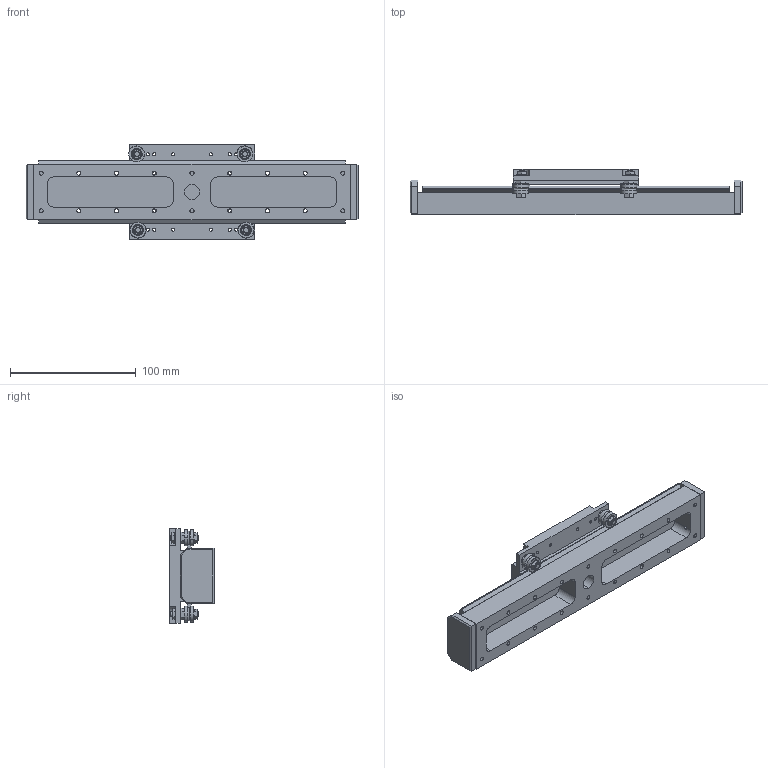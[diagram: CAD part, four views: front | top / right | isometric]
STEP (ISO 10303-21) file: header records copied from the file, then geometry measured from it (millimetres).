
FILE_DESCRIPTION (( 'STEP AP214' ), '1' );
FILE_NAME ('VSM23-P-150 - Simplified.STEP', '2024-06-21T09:20:35', ( '' ), ( '' ), 'SwSTEP 2.0', 'SolidWorks 2024', '' );
FILE_SCHEMA (( 'AUTOMOTIVE_DESIGN' ));
Length unit declared in the file: millimetre
Products named in the file (16): Bearing_Simplified; Concentric shaft_Simplified; VSM23-P Passive Carriage Assy_Simplified; Inner_Simplified; Outer_Simplified; VSM23-P-150 - Simplified; Eccentric Bearing Assy_Simplified; VSM23-X-150 V-slide_Simplified; Concentric Bearing Assy_Simplified; P0301.040-A2_P0301.040-A2; M4 Washer; VSM23-P-150 Base plate_Simplified; Eccentric shaft_Simplified; VSM23-P End Plate_Simplified; VSM23-P Passive Carriage_Simplified; Ball
Assembly tree (34 placements, depth 5):
  VSM23-P-150 - Simplified
    VSM23-P-150 Base plate_Simplified
    VSM23-X-150 V-slide_Simplified
    VSM23-P Passive Carriage Assy_Simplified
      VSM23-P Passive Carriage_Simplified
      Eccentric Bearing Assy_Simplified  x2
        Eccentric shaft_Simplified
        Bearing_Simplified
          Outer_Simplified
          Inner_Simplified
          Ball  x8
        P0301.040-A2_P0301.040-A2
      Concentric Bearing Assy_Simplified  x2
        Concentric shaft_Simplified
        Bearing_Simplified
          Outer_Simplified
          Inner_Simplified
          Ball  x8
        P0301.040-A2_P0301.040-A2
      M4 Washer  x2
      P0301.040-A2_P0301.040-A2  x4
    VSM23-P End Plate_Simplified  x2
Bounding box: 264 x 36 x 75 mm (x, y, z)
Volume: 252985.1 mm3; surface area: 97457.2 mm2
Topology: 99 solids, 99 shells, 933 faces, 2331 edges, 1502 vertices
Faces by surface type: cylinder 363, plane 242, sphere 128, cone 120, torus 80
Entity records: 12542 total; most frequent: CARTESIAN_POINT 2365, DIRECTION 2183, ORIENTED_EDGE 1878, EDGE_CURVE 939, AXIS2_PLACEMENT_3D 886, VERTEX_POINT 612, EDGE_LOOP 537, CIRCLE 480
